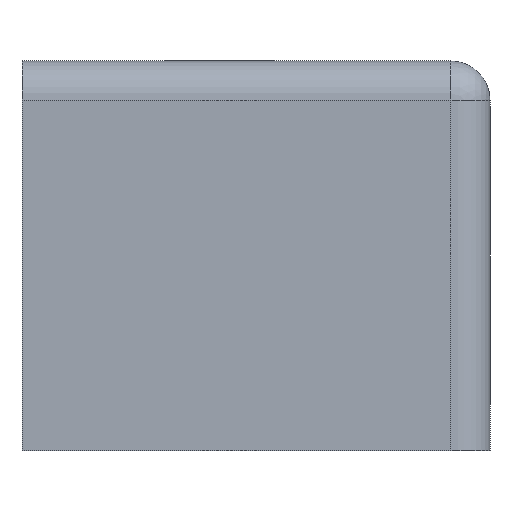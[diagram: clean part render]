
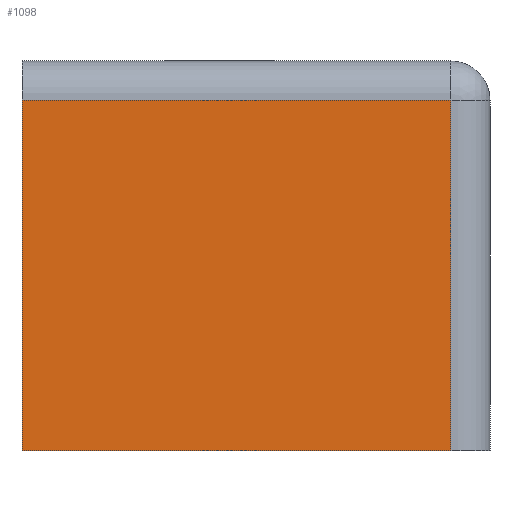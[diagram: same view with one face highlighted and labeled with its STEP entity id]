
A CAD part, left-side view. The second image highlights one B-rep face of the part: STEP entity #1098.
In plain terms, the highlighted planar face has unit normal (-1, 0, 0).
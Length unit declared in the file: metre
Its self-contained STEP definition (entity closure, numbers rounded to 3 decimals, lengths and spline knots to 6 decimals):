
#79=LINE('',#1720,#206);
#105=LINE('',#1776,#232);
#108=LINE('',#1782,#235);
#109=LINE('',#1784,#236);
#206=VECTOR('',#1364,1.);
#232=VECTOR('',#1408,1.);
#235=VECTOR('',#1415,1.);
#236=VECTOR('',#1416,1.);
#409=ORIENTED_EDGE('',*,*,#709,.F.);
#410=ORIENTED_EDGE('',*,*,#712,.T.);
#411=ORIENTED_EDGE('',*,*,#713,.T.);
#412=ORIENTED_EDGE('',*,*,#680,.F.);
#680=EDGE_CURVE('',#838,#839,#79,.T.);
#709=EDGE_CURVE('',#859,#838,#105,.T.);
#712=EDGE_CURVE('',#859,#861,#108,.T.);
#713=EDGE_CURVE('',#861,#839,#109,.T.);
#838=VERTEX_POINT('',#1719);
#839=VERTEX_POINT('',#1721);
#859=VERTEX_POINT('',#1775);
#861=VERTEX_POINT('',#1783);
#927=EDGE_LOOP('',(#409,#410,#411,#412));
#996=FACE_BOUND('',#927,.T.);
#1057=PLANE('',#1199);
#1098=ADVANCED_FACE('',(#996),#1057,.T.);
#1199=AXIS2_PLACEMENT_3D('',#1781,#1413,#1414);
#1364=DIRECTION('',(0.,0.,1.));
#1408=DIRECTION('',(0.,1.,0.));
#1413=DIRECTION('',(-1.,0.,0.));
#1414=DIRECTION('',(0.,0.,1.));
#1415=DIRECTION('',(0.,0.,1.));
#1416=DIRECTION('',(0.,1.,0.));
#1719=CARTESIAN_POINT('',(-0.037219,0.,-0.025));
#1720=CARTESIAN_POINT('',(-0.037219,0.,0.));
#1721=CARTESIAN_POINT('',(-0.037219,0.,0.02));
#1775=CARTESIAN_POINT('',(-0.037219,-0.055,-0.025));
#1776=CARTESIAN_POINT('',(-0.037219,-0.06,-0.025));
#1781=CARTESIAN_POINT('',(-0.037219,-0.06,0.));
#1782=CARTESIAN_POINT('',(-0.037219,-0.055,0.));
#1783=CARTESIAN_POINT('',(-0.037219,-0.055,0.02));
#1784=CARTESIAN_POINT('',(-0.037219,0.,0.02));
